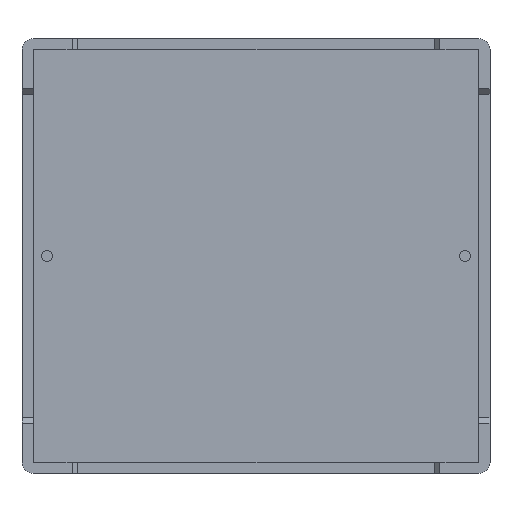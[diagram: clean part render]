
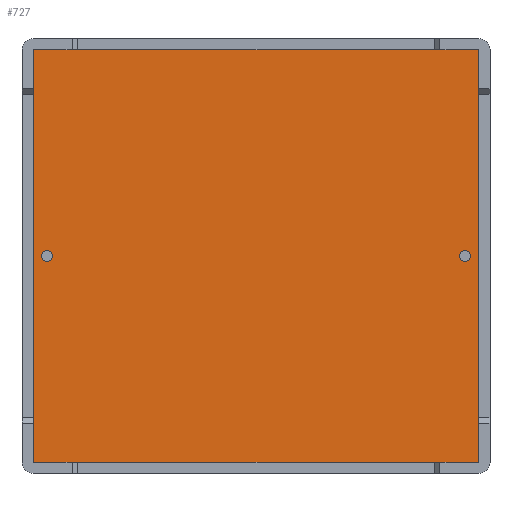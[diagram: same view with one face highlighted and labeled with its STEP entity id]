
A CAD part, front view. The second image highlights one B-rep face of the part: STEP entity #727.
In plain terms, the highlighted planar face has unit normal (0, -1, 0).
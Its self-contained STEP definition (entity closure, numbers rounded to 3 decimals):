
#31 = CARTESIAN_POINT ( 'NONE',  ( -20., 1., 18.4 ) ) ;
#133 = EDGE_CURVE ( 'NONE', #3575, #3459, #1051, .T. ) ;
#167 = EDGE_CURVE ( 'NONE', #3710, #3455, #907, .T. ) ;
#196 = EDGE_CURVE ( 'NONE', #3850, #3676, #724, .T. ) ;
#229 = EDGE_CURVE ( 'NONE', #4015, #3158, #563, .T. ) ;
#236 = CARTESIAN_POINT ( 'NONE',  ( -20., 1., -18.4 ) ) ;
#247 = EDGE_CURVE ( 'NONE', #1115, #1052, #461, .T. ) ;
#256 = EDGE_CURVE ( 'NONE', #1197, #1077, #393, .T. ) ;
#264 = EDGE_CURVE ( 'NONE', #3158, #3850, #345, .T. ) ;
#273 = EDGE_CURVE ( 'NONE', #3676, #3710, #343, .T. ) ;
#278 = CIRCLE ( 'NONE', #4255, 0.5 ) ;
#281 = EDGE_CURVE ( 'NONE', #3455, #3575, #329, .T. ) ;
#287 = EDGE_CURVE ( 'NONE', #3459, #4015, #313, .T. ) ;
#313 = CIRCLE ( 'NONE', #2268, 0.1 ) ;
#329 = CIRCLE ( 'NONE', #1822, 0.1 ) ;
#343 = CIRCLE ( 'NONE', #1607, 0.1 ) ;
#345 = CIRCLE ( 'NONE', #1387, 0.1 ) ;
#393 = CIRCLE ( 'NONE', #1106, 0.5 ) ;
#461 = CIRCLE ( 'NONE', #808, 0.5 ) ;
#510 = VECTOR ( 'NONE', #2673, 1000. ) ;
#512 = CARTESIAN_POINT ( 'NONE',  ( -18.75, 1., 0. ) ) ;
#563 = LINE ( 'NONE', #2698, #510 ) ;
#641 = VECTOR ( 'NONE', #2906, 1000. ) ;
#724 = LINE ( 'NONE', #3013, #641 ) ;
#727 = ADVANCED_FACE ( 'NONE', ( #3247, #3388, #3325 ), #2006, .T. ) ;
#765 = CARTESIAN_POINT ( 'NONE',  ( 18.75, 1., 0.5 ) ) ;
#808 = AXIS2_PLACEMENT_3D ( 'NONE', #2552, #2543, #2540 ) ;
#816 = AXIS2_PLACEMENT_3D ( 'NONE', #2023, #2180, #1974 ) ;
#845 = VECTOR ( 'NONE', #3088, 1000. ) ;
#907 = LINE ( 'NONE', #3212, #845 ) ;
#985 = VECTOR ( 'NONE', #1211, 1000. ) ;
#1010 = DIRECTION ( 'NONE',  ( 0., 0., -1. ) ) ;
#1051 = LINE ( 'NONE', #1313, #985 ) ;
#1052 = VERTEX_POINT ( 'NONE', #2172 ) ;
#1077 = VERTEX_POINT ( 'NONE', #2184 ) ;
#1106 = AXIS2_PLACEMENT_3D ( 'NONE', #2483, #2478, #2465 ) ;
#1115 = VERTEX_POINT ( 'NONE', #765 ) ;
#1197 = VERTEX_POINT ( 'NONE', #2916 ) ;
#1211 = DIRECTION ( 'NONE',  ( -1., 0., 0. ) ) ;
#1251 = CARTESIAN_POINT ( 'NONE',  ( 19.9, 1., -18.5 ) ) ;
#1313 = CARTESIAN_POINT ( 'NONE',  ( 20., 1., 18.5 ) ) ;
#1355 = EDGE_CURVE ( 'NONE', #1077, #1197, #1381, .T. ) ;
#1381 = CIRCLE ( 'NONE', #2524, 0.5 ) ;
#1387 = AXIS2_PLACEMENT_3D ( 'NONE', #2446, #2443, #2421 ) ;
#1596 = CARTESIAN_POINT ( 'NONE',  ( 19.9, 1., 18.5 ) ) ;
#1607 = AXIS2_PLACEMENT_3D ( 'NONE', #2399, #2390, #2388 ) ;
#1822 = AXIS2_PLACEMENT_3D ( 'NONE', #2324, #2318, #2312 ) ;
#1878 = CARTESIAN_POINT ( 'NONE',  ( -19.9, 1., 18.5 ) ) ;
#1974 = DIRECTION ( 'NONE',  ( 0., 0., -1. ) ) ;
#1978 = EDGE_LOOP ( 'NONE', ( #2345, #2403 ) ) ;
#1981 = EDGE_LOOP ( 'NONE', ( #2311, #2315 ) ) ;
#2006 = PLANE ( 'NONE',  #816 ) ;
#2017 = EDGE_LOOP ( 'NONE', ( #2422, #2460, #2469, #2505, #2522, #2533, #2549, #2563 ) ) ;
#2023 = CARTESIAN_POINT ( 'NONE',  ( 0., 1., 0. ) ) ;
#2070 = DIRECTION ( 'NONE',  ( 0., -1., 0. ) ) ;
#2172 = CARTESIAN_POINT ( 'NONE',  ( 18.75, 1., -0.5 ) ) ;
#2180 = DIRECTION ( 'NONE',  ( 0., -1., 0. ) ) ;
#2184 = CARTESIAN_POINT ( 'NONE',  ( -18.75, 1., -0.5 ) ) ;
#2229 = DIRECTION ( 'NONE',  ( 0., 0., -1. ) ) ;
#2239 = DIRECTION ( 'NONE',  ( 0., -1., 0. ) ) ;
#2241 = CARTESIAN_POINT ( 'NONE',  ( -19.9, 1., 18.4 ) ) ;
#2268 = AXIS2_PLACEMENT_3D ( 'NONE', #2241, #2239, #2229 ) ;
#2311 = ORIENTED_EDGE ( 'NONE', *, *, #247, .F. ) ;
#2312 = DIRECTION ( 'NONE',  ( 0., 0., -1. ) ) ;
#2315 = ORIENTED_EDGE ( 'NONE', *, *, #4290, .F. ) ;
#2318 = DIRECTION ( 'NONE',  ( 0., -1., 0. ) ) ;
#2324 = CARTESIAN_POINT ( 'NONE',  ( 19.9, 1., 18.4 ) ) ;
#2345 = ORIENTED_EDGE ( 'NONE', *, *, #256, .F. ) ;
#2388 = DIRECTION ( 'NONE',  ( 0., 0., -1. ) ) ;
#2390 = DIRECTION ( 'NONE',  ( 0., -1., 0. ) ) ;
#2399 = CARTESIAN_POINT ( 'NONE',  ( 19.9, 1., -18.4 ) ) ;
#2403 = ORIENTED_EDGE ( 'NONE', *, *, #1355, .F. ) ;
#2421 = DIRECTION ( 'NONE',  ( 0., 0., -1. ) ) ;
#2422 = ORIENTED_EDGE ( 'NONE', *, *, #229, .T. ) ;
#2443 = DIRECTION ( 'NONE',  ( 0., -1., 0. ) ) ;
#2446 = CARTESIAN_POINT ( 'NONE',  ( -19.9, 1., -18.4 ) ) ;
#2460 = ORIENTED_EDGE ( 'NONE', *, *, #264, .T. ) ;
#2465 = DIRECTION ( 'NONE',  ( 0., 0., -1. ) ) ;
#2469 = ORIENTED_EDGE ( 'NONE', *, *, #196, .T. ) ;
#2478 = DIRECTION ( 'NONE',  ( 0., -1., 0. ) ) ;
#2483 = CARTESIAN_POINT ( 'NONE',  ( -18.75, 1., 0. ) ) ;
#2505 = ORIENTED_EDGE ( 'NONE', *, *, #273, .T. ) ;
#2522 = ORIENTED_EDGE ( 'NONE', *, *, #167, .T. ) ;
#2524 = AXIS2_PLACEMENT_3D ( 'NONE', #512, #3028, #1010 ) ;
#2533 = ORIENTED_EDGE ( 'NONE', *, *, #281, .T. ) ;
#2540 = DIRECTION ( 'NONE',  ( 0., 0., -1. ) ) ;
#2543 = DIRECTION ( 'NONE',  ( 0., -1., 0. ) ) ;
#2549 = ORIENTED_EDGE ( 'NONE', *, *, #133, .T. ) ;
#2552 = CARTESIAN_POINT ( 'NONE',  ( 18.75, 1., 0. ) ) ;
#2563 = ORIENTED_EDGE ( 'NONE', *, *, #287, .T. ) ;
#2673 = DIRECTION ( 'NONE',  ( 0., 0., -1. ) ) ;
#2698 = CARTESIAN_POINT ( 'NONE',  ( -20., 1., 18.5 ) ) ;
#2878 = CARTESIAN_POINT ( 'NONE',  ( 20., 1., 18.4 ) ) ;
#2906 = DIRECTION ( 'NONE',  ( 1., 0., 0. ) ) ;
#2916 = CARTESIAN_POINT ( 'NONE',  ( -18.75, 1., 0.5 ) ) ;
#3013 = CARTESIAN_POINT ( 'NONE',  ( -20., 1., -18.5 ) ) ;
#3028 = DIRECTION ( 'NONE',  ( 0., -1., 0. ) ) ;
#3088 = DIRECTION ( 'NONE',  ( 0., 0., 1. ) ) ;
#3158 = VERTEX_POINT ( 'NONE', #236 ) ;
#3212 = CARTESIAN_POINT ( 'NONE',  ( 20., 1., -18.5 ) ) ;
#3247 = FACE_BOUND ( 'NONE', #1981, .T. ) ;
#3325 = FACE_OUTER_BOUND ( 'NONE', #2017, .T. ) ;
#3388 = FACE_BOUND ( 'NONE', #1978, .T. ) ;
#3455 = VERTEX_POINT ( 'NONE', #2878 ) ;
#3459 = VERTEX_POINT ( 'NONE', #1878 ) ;
#3575 = VERTEX_POINT ( 'NONE', #1596 ) ;
#3676 = VERTEX_POINT ( 'NONE', #1251 ) ;
#3710 = VERTEX_POINT ( 'NONE', #4034 ) ;
#3801 = CARTESIAN_POINT ( 'NONE',  ( -19.9, 1., -18.5 ) ) ;
#3850 = VERTEX_POINT ( 'NONE', #3801 ) ;
#3885 = CARTESIAN_POINT ( 'NONE',  ( 18.75, 1., 0. ) ) ;
#4015 = VERTEX_POINT ( 'NONE', #31 ) ;
#4034 = CARTESIAN_POINT ( 'NONE',  ( 20., 1., -18.4 ) ) ;
#4165 = DIRECTION ( 'NONE',  ( 0., 0., -1. ) ) ;
#4255 = AXIS2_PLACEMENT_3D ( 'NONE', #3885, #2070, #4165 ) ;
#4290 = EDGE_CURVE ( 'NONE', #1052, #1115, #278, .T. ) ;
